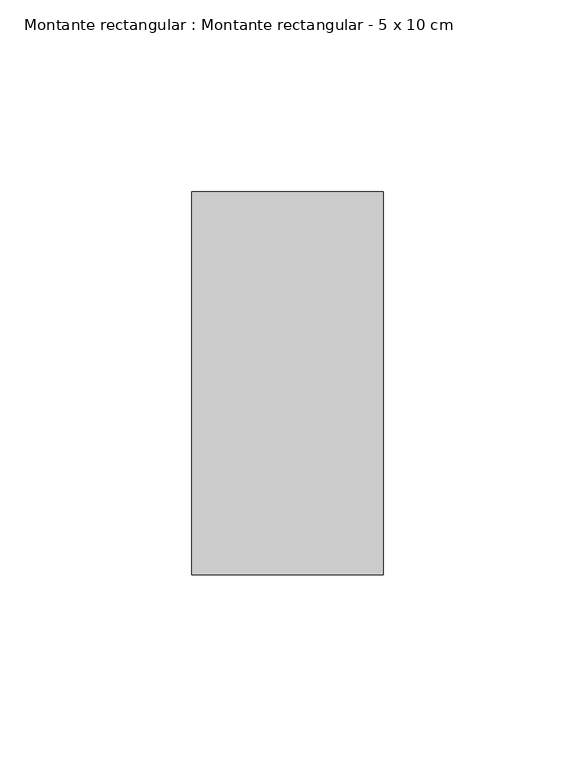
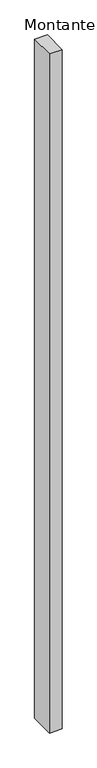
"""IFC4 building model written with IfcOpenShell, lengths in millimetres: member geometry, Montante rectangular : Montante rectangular - 5 x 10 cm."""

from ifc_helpers import new_model, si_unit, frame, origin, place, context, project, spatial, polyline, outline, extrude, source, transform, mapped, element, save


def montante_rectangular_montante_rectangular_5_x_10_cm_ceddc77e(model_context):
    return source(origin(), model_context, "Body", "SweptSolid", [
        extrude(outline(polyline([(0.0, 50.0), (0.0, -50.0), (-50.0, -50.0), (-50.0, 50.0), (0.0, 50.0)])), frame((0.0, 0.0, -2820.0), z_axis=(0.0, 0.0, 1.0), x_axis=(1.0, 0.0, 0.0)), (0.0, 0.0, 1.0), 2820.0),
    ])


if __name__ == "__main__":
    model = new_model("IFC4")
    model_context = context("Model", 3, world=origin())
    ifc_project = project(units=[si_unit("LENGTHUNIT", "METRE", prefix="MILLI")], contexts=[model_context])
    site = spatial("IfcSite", under=ifc_project)
    building = spatial("IfcBuilding", under=site)
    placement = place(None, origin())
    montante_rectangular_montante_rectangular_5_x_10_cm_shape = montante_rectangular_montante_rectangular_5_x_10_cm_ceddc77e(model_context)
    element("IfcMember", 1, ObjectType="Montante rectangular : Montante rectangular - 5 x 10 cm", at=placement, inside=building, context=model_context, shape_type="MappedRepresentation", body=[
        mapped(montante_rectangular_montante_rectangular_5_x_10_cm_shape, transform((0.0, 0.0, 0.0), x_axis=(1.0, 0.0, 0.0), y_axis=(0.0, 1.0, 0.0), z_axis=(0.0, 0.0, 1.0))),
    ])
    save(model, "model.ifc")
